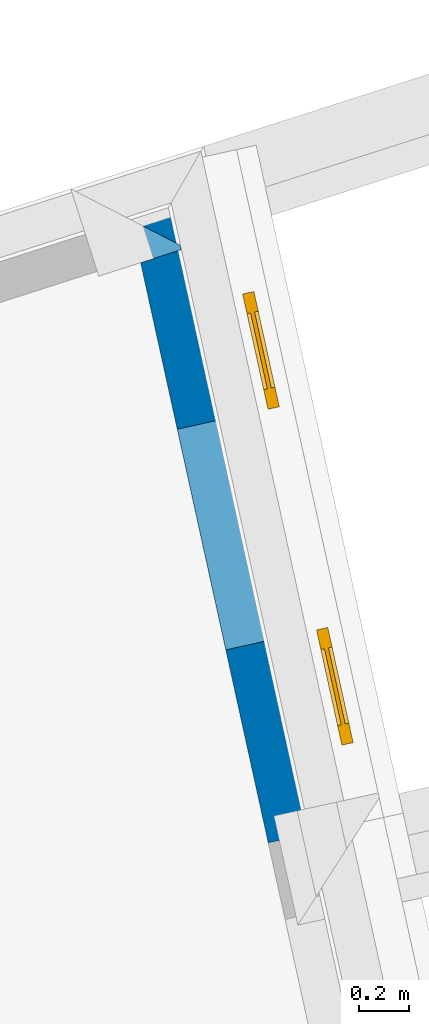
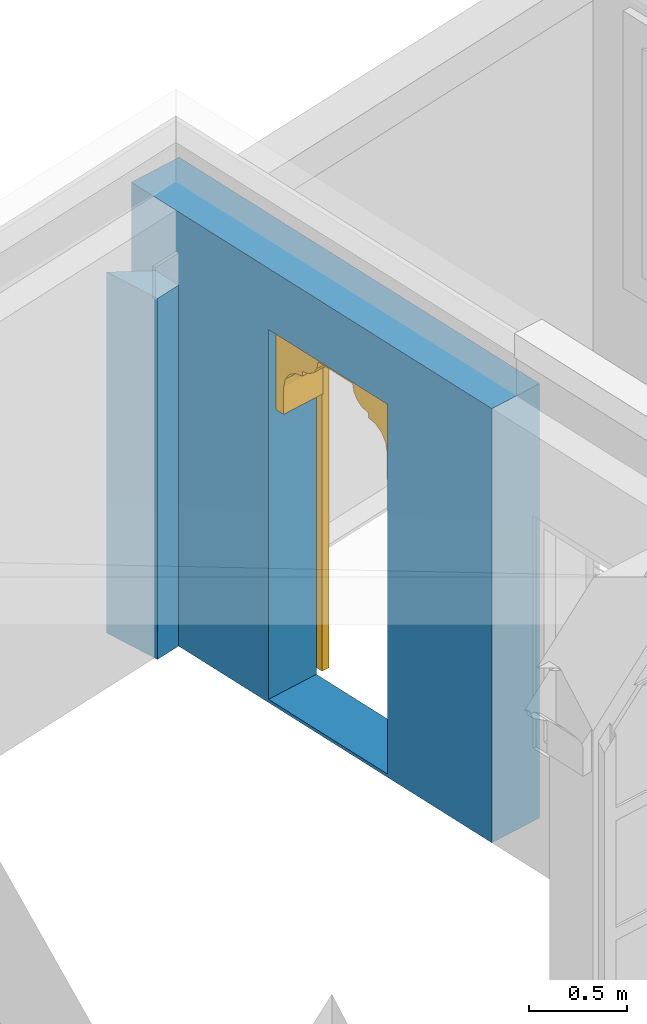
# One storey, part 12 of 17: 2 walls, 1 door, 1 opening.
"""IFC4 building model written with IfcOpenShell, lengths in metres."""

from ifc_helpers import new_model, si_unit, frame, origin, origin_with_axes, place, context, subcontext, project, spatial, polyline, outline, extrude, clip, halfspace, faceted_brep, source, transform, mapped, material, layer, layer_set, layer_usage, material_profile, profile_set, profile_usage, type_object, type_shapes, element, fill, save


model = new_model("IFC4")

# Units and contexts
model_context = context("Model", 3, world=origin_with_axes())
body_context = subcontext(model_context, "Body", "Model", "MODEL_VIEW")
ifc_project = project(units=[si_unit("PLANEANGLEUNIT", "RADIAN"), si_unit("MASSUNIT", "GRAM", prefix="KILO"), si_unit("FORCEUNIT", "NEWTON", prefix="KILO"), si_unit("LENGTHUNIT", "METRE"), si_unit("AREAUNIT", "SQUARE_METRE"), si_unit("VOLUMEUNIT", "CUBIC_METRE")], contexts=[model_context, model_context])

# Site, building, storey
site_placement = place(None, origin_with_axes())
site = spatial("IfcSite", under=ifc_project, at=site_placement, Name="Site plot-2", CompositionType="ELEMENT")
building_placement = place(None, origin_with_axes())
building = spatial("IfcBuilding", under=site, at=building_placement, Name="Building plot-2", CompositionType="ELEMENT")
storey_placement = place(None, frame((0.0, 0.0, 2.85), z_axis=(0.0, 0.0, 1.0), x_axis=(1.0, 0.0, 0.0)))
storey = spatial("IfcBuildingStorey", under=building, at=storey_placement, Name="plot-2 1", CompositionType="ELEMENT", Elevation=2.85)

# Wall, opening, door
ifc_material = material(Name="Masonry")
ifc_layer = layer(ifc_material, 0.33, ventilated=False)
ifc_layer_set = layer_set([ifc_layer], Name="exterior_0.08_0.25")
ifc_layer_usage = layer_usage(ifc_layer_set, "AXIS2", "POSITIVE", -0.25)
wall_type_1 = type_object("IfcWallType", Name="exterior_0.08_0.25", PredefinedType="SOLIDWALL", material=ifc_layer_set)
wall_1_placement = place(storey_placement, frame((12.116330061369, 12.5787445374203, 0.0), z_axis=(0.0, 0.0, 1.0), x_axis=(-0.214808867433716, 0.976656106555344, 0.0)))
wall_1 = element("IfcWall", 1, at=wall_1_placement, inside=storey, type_object=wall_type_1, material=ifc_layer_usage, Name="exterior", context=body_context, shape_type="SweptSolid", body=[
    extrude(outline(polyline([(-4.38270280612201e-15, 0.0799999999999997), (1.13395829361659e-14, -0.249999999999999), (2.72432531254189, -0.25), (2.72432531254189, 0.0800000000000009), (-4.38270280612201e-15, 0.0799999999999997)])), origin_with_axes(), (0.0, 0.0, 1.0), 2.7),
])
opening_placement = place(wall_1_placement, frame((0.787162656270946, 0.0, 0.02)))
opening = element("IfcOpeningElement", 2, at=opening_placement, cuts=wall_1, Name="My Opening", ObjectType="Opening", context=body_context, shape_type="SweptSolid", body=[
    extrude(outline(polyline([(0.0, -0.269999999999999), (0.9, -0.270000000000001), (0.899999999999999, 1.1), (-6.66133814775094e-16, 1.1), (0.0, -0.269999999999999)])), origin_with_axes(), (0.0, 0.0, 1.0), 2.3),
])
door_type = type_object("IfcDoorType", Name="arch-900x2300", OperationType="SINGLE_SWING_LEFT", PredefinedType="NOTDEFINED")
shared_shape = source(origin(), body_context, "Body", "Brep", [
    faceted_brep([(-0.08, -0.02, 0.08), (-0.08, -0.02, 0.0), (-0.39, -0.02, 0.0), (-0.39, -0.02, 0.08), (-0.47, -0.02, 0.0), (-0.47, -0.02, 0.08), (-0.39, -0.035, 0.08), (-0.08, -0.035, 0.08), (0.0, -0.02, 0.08), (0.0, -0.02, 0.0), (-0.08, -0.066, 0.0), (-0.39, -0.066, 0.0), (-0.47, -0.066, 0.0), (-0.47, -0.066, 0.08), (-0.39, -0.02, 0.743333), (-0.47, -0.02, 0.743333), (-0.39, -0.035, 0.743333), (-0.08, -0.035, 0.743333), (-0.08, -0.02, 0.743333), (0.0, -0.02, 0.743333), (0.0, -0.066, 0.08), (0.0, -0.066, 0.0), (-0.39, -0.066, 0.08), (-0.08, -0.066, 0.08), (-0.47, -0.066, 0.743333), (-0.39, -0.02, 0.823333), (-0.47, -0.02, 0.823333), (0.0, -0.066, 0.743333), (0.0, -0.02, 0.823333), (-0.08, -0.02, 0.823333), (-0.08, -0.051, 0.08), (-0.39, -0.051, 0.08), (-0.39, -0.066, 0.743333), (-0.47, -0.066, 0.823333), (-0.39, -0.02, 1.486667), (-0.47, -0.02, 1.486667), (0.0, -0.066, 0.823333), (-0.08, -0.066, 0.743333), (0.0, -0.02, 1.486667), (-0.08, -0.02, 1.486667), (-0.08, -0.051, 0.743333), (-0.39, -0.051, 0.743333), (-0.39, -0.066, 0.823333), (-0.47, -0.066, 1.486667), (-0.39, -0.035, 0.823333), (-0.08, -0.035, 0.823333), (-0.39, -0.035, 1.486667), (-0.39, -0.02, 1.566667), (-0.47, -0.02, 1.566667), (0.0, -0.066, 1.486667), (-0.08, -0.066, 0.823333), (-0.08, -0.035, 1.486667), (0.0, -0.02, 1.566667), (-0.08, -0.02, 1.566667), (-0.39, -0.066, 1.486667), (-0.47, -0.066, 1.566667), (-0.39, -0.02, 2.23), (-0.47, -0.02, 2.23), (0.0, -0.066, 1.566667), (-0.08, -0.066, 1.486667), (0.0, -0.02, 2.23), (-0.08, -0.02, 2.23), (-0.08, -0.051, 0.823333), (-0.39, -0.051, 0.823333), (-0.39, -0.051, 1.486667), (-0.39, -0.066, 1.566667), (-0.47, -0.066, 2.23), (-0.39, -0.035, 1.566667), (-0.08, -0.035, 1.566667), (-0.39, -0.035, 2.23), (-0.39, -0.02, 2.31), (-0.47, -0.02, 2.31), (0.0, -0.066, 2.23), (-0.08, -0.066, 1.566667), (-0.08, -0.051, 1.486667), (-0.08, -0.035, 2.23), (0.0, -0.02, 2.31), (-0.08, -0.02, 2.31), (-0.39, -0.066, 2.23), (-0.47, -0.066, 2.31), (-0.39, -0.066, 2.31), (0.0, -0.066, 2.31), (-0.08, -0.066, 2.23), (-0.08, -0.066, 2.31), (-0.08, -0.051, 1.566667), (-0.39, -0.051, 1.566667), (-0.39, -0.051, 2.23), (-0.08, -0.051, 2.23), (1.29, -0.02, 0.08), (1.29, -0.02, 0.0), (0.98, -0.02, 0.0), (0.98, -0.02, 0.08), (1.37, -0.02, 0.08), (1.37, -0.02, 0.0), (0.98, -0.035, 0.08), (1.29, -0.035, 0.08), (0.9, -0.02, 0.0), (0.9, -0.02, 0.08), (1.29, -0.066, 0.0), (0.98, -0.066, 0.0), (1.37, -0.066, 0.08), (1.37, -0.066, 0.0), (1.37, -0.02, 0.743333), (1.29, -0.02, 0.743333), (1.29, -0.035, 0.743333), (0.98, -0.035, 0.743333), (0.98, -0.02, 0.743333), (0.9, -0.02, 0.743333), (0.9, -0.066, 0.0), (0.9, -0.066, 0.08), (0.98, -0.066, 0.08), (1.29, -0.066, 0.08), (1.37, -0.066, 0.743333), (1.37, -0.02, 0.823333), (1.29, -0.02, 0.823333), (0.9, -0.066, 0.743333), (0.98, -0.02, 0.823333), (0.9, -0.02, 0.823333), (1.29, -0.051, 0.08), (0.98, -0.051, 0.08), (1.29, -0.066, 0.743333), (1.37, -0.066, 0.823333), (1.37, -0.02, 1.486667), (1.29, -0.02, 1.486667), (0.9, -0.066, 0.823333), (0.98, -0.066, 0.743333), (0.98, -0.02, 1.486667), (0.9, -0.02, 1.486667), (0.98, -0.051, 0.743333), (1.29, -0.051, 0.743333), (1.29, -0.066, 0.823333), (1.37, -0.066, 1.486667), (0.98, -0.035, 0.823333), (1.29, -0.035, 0.823333), (1.29, -0.035, 1.486667), (1.37, -0.02, 1.566667), (1.29, -0.02, 1.566667), (0.9, -0.066, 1.486667), (0.98, -0.066, 0.823333), (0.98, -0.035, 1.486667), (0.98, -0.02, 1.566667), (0.9, -0.02, 1.566667), (1.29, -0.066, 1.486667), (1.37, -0.066, 1.566667), (1.37, -0.02, 2.23), (1.29, -0.02, 2.23), (0.9, -0.066, 1.566667), (0.98, -0.066, 1.486667), (0.98, -0.02, 2.23), (0.9, -0.02, 2.23), (1.29, -0.051, 0.823333), (0.98, -0.051, 0.823333), (1.29, -0.051, 1.486667), (1.29, -0.066, 1.566667), (1.37, -0.066, 2.23), (0.98, -0.035, 1.566667), (1.29, -0.035, 1.566667), (1.29, -0.035, 2.23), (1.37, -0.02, 2.31), (1.29, -0.02, 2.31), (0.9, -0.066, 2.23), (0.98, -0.066, 1.566667), (0.98, -0.051, 1.486667), (0.98, -0.035, 2.23), (0.98, -0.02, 2.31), (0.9, -0.02, 2.31), (1.29, -0.066, 2.23), (1.37, -0.066, 2.31), (1.29, -0.066, 2.31), (0.9, -0.066, 2.31), (0.98, -0.066, 2.23), (0.98, -0.066, 2.31), (1.29, -0.051, 1.566667), (0.98, -0.051, 1.566667), (1.29, -0.051, 2.23), (0.98, -0.051, 2.23), (0.9, 0.03, 1.78), (0.9, 0.03, 1.95), (0.84, 0.03, 1.95), (0.84, 0.03, 1.78), (0.84, 0.3, 1.95), (0.84, 0.3, 1.78), (0.9, 0.03, 2.12), (0.829, 0.03, 2.004), (0.9, 0.3, 1.78), (0.9, 0.3, 1.95), (0.829, 0.3, 2.004), (0.799, 0.03, 2.049), (0.9, 0.3, 2.12), (0.799, 0.3, 2.049), (0.754, 0.03, 2.079), (0.9, 0.3, 2.29), (0.9, 0.03, 2.29), (0.754, 0.3, 2.079), (0.7, 0.03, 2.09), (0.7, 0.03, 2.12), (0.654, 0.03, 2.129), (0.58, 0.3, 2.29), (0.58, 0.03, 2.29), (0.7, 0.3, 2.12), (0.654, 0.3, 2.129), (0.7, 0.3, 2.09), (0.615, 0.03, 2.155), (0.589, 0.3, 2.194), (0.58, 0.3, 2.24), (0.58, 0.03, 2.24), (0.589, 0.03, 2.194), (0.615, 0.3, 2.155), (0.06, 0.03, 1.78), (0.06, 0.03, 1.95), (0.0, 0.03, 1.95), (0.0, 0.03, 1.78), (0.06, 0.3, 1.78), (0.06, 0.3, 1.95), (0.071, 0.03, 2.004), (0.0, 0.03, 2.12), (0.0, 0.3, 1.95), (0.0, 0.3, 1.78), (0.071, 0.3, 2.004), (0.101, 0.03, 2.049), (0.0, 0.3, 2.12), (0.101, 0.3, 2.049), (0.146, 0.03, 2.079), (0.0, 0.03, 2.29), (0.0, 0.3, 2.29), (0.146, 0.3, 2.079), (0.2, 0.03, 2.12), (0.2, 0.03, 2.09), (0.246, 0.03, 2.129), (0.32, 0.03, 2.29), (0.32, 0.3, 2.29), (0.246, 0.3, 2.129), (0.2, 0.3, 2.12), (0.2, 0.3, 2.09), (0.285, 0.03, 2.155), (0.32, 0.3, 2.24), (0.311, 0.3, 2.194), (0.311, 0.03, 2.194), (0.32, 0.03, 2.24), (0.285, 0.3, 2.155)], [[[0, 1, 2, 3]], [[4, 5, 3, 2]], [[0, 3, 6, 7]], [[1, 0, 8, 9]], [[2, 1, 10, 11]], [[5, 4, 12, 13]], [[14, 3, 5, 15]], [[4, 2, 11, 12]], [[3, 14, 16, 6]], [[6, 16, 17, 7]], [[18, 0, 7, 17]], [[0, 18, 19, 8]], [[9, 8, 20, 21]], [[1, 9, 21, 10]], [[22, 11, 10, 23]], [[13, 12, 11, 22]], [[15, 5, 13, 24]], [[25, 14, 15, 26]], [[14, 18, 17, 16]], [[8, 19, 27, 20]], [[28, 19, 18, 29]], [[23, 10, 21, 20]], [[22, 23, 30, 31]], [[22, 32, 24, 13]], [[26, 15, 24, 33]], [[29, 18, 14, 25]], [[34, 25, 26, 35]], [[19, 28, 36, 27]], [[20, 27, 37, 23]], [[38, 28, 29, 39]], [[23, 37, 40, 30]], [[41, 31, 30, 40]], [[32, 22, 31, 41]], [[32, 42, 33, 24]], [[35, 26, 33, 43]], [[29, 25, 44, 45]], [[25, 34, 46, 44]], [[47, 34, 35, 48]], [[28, 38, 49, 36]], [[27, 36, 50, 37]], [[39, 29, 45, 51]], [[52, 38, 39, 53]], [[37, 32, 41, 40]], [[37, 50, 42, 32]], [[42, 54, 43, 33]], [[48, 35, 43, 55]], [[44, 46, 51, 45]], [[34, 39, 51, 46]], [[34, 47, 53, 39]], [[56, 47, 48, 57]], [[38, 52, 58, 49]], [[36, 49, 59, 50]], [[60, 52, 53, 61]], [[42, 50, 62, 63]], [[54, 42, 63, 64]], [[54, 65, 55, 43]], [[57, 48, 55, 66]], [[53, 47, 67, 68]], [[47, 56, 69, 67]], [[70, 56, 57, 71]], [[52, 60, 72, 58]], [[49, 58, 73, 59]], [[50, 59, 74, 62]], [[61, 53, 68, 75]], [[76, 60, 61, 77]], [[64, 63, 62, 74]], [[59, 54, 64, 74]], [[65, 54, 59, 73]], [[65, 78, 66, 55]], [[71, 57, 66, 79]], [[67, 69, 75, 68]], [[56, 61, 75, 69]], [[77, 61, 56, 70]], [[70, 71, 79, 80]], [[60, 76, 81, 72]], [[58, 72, 82, 73]], [[76, 77, 83, 81]], [[65, 73, 84, 85]], [[78, 65, 85, 86]], [[78, 80, 79, 66]], [[77, 70, 80, 83]], [[72, 81, 83, 82]], [[73, 82, 87, 84]], [[86, 85, 84, 87]], [[82, 78, 86, 87]], [[82, 83, 80, 78]], [[88, 89, 90, 91]], [[89, 88, 92, 93]], [[94, 95, 88, 91]], [[96, 97, 91, 90]], [[98, 99, 90, 89]], [[100, 101, 93, 92]], [[102, 92, 88, 103]], [[101, 98, 89, 93]], [[95, 104, 103, 88]], [[94, 105, 104, 95]], [[105, 94, 91, 106]], [[97, 107, 106, 91]], [[108, 109, 97, 96]], [[99, 108, 96, 90]], [[110, 99, 98, 111]], [[111, 98, 101, 100]], [[112, 100, 92, 102]], [[113, 102, 103, 114]], [[104, 105, 106, 103]], [[109, 115, 107, 97]], [[116, 106, 107, 117]], [[109, 108, 99, 110]], [[118, 119, 110, 111]], [[100, 112, 120, 111]], [[121, 112, 102, 113]], [[114, 103, 106, 116]], [[122, 113, 114, 123]], [[115, 124, 117, 107]], [[110, 125, 115, 109]], [[126, 116, 117, 127]], [[119, 128, 125, 110]], [[128, 119, 118, 129]], [[129, 118, 111, 120]], [[112, 121, 130, 120]], [[131, 121, 113, 122]], [[132, 133, 114, 116]], [[133, 134, 123, 114]], [[135, 122, 123, 136]], [[124, 137, 127, 117]], [[125, 138, 124, 115]], [[139, 132, 116, 126]], [[140, 126, 127, 141]], [[128, 129, 120, 125]], [[120, 130, 138, 125]], [[121, 131, 142, 130]], [[143, 131, 122, 135]], [[132, 139, 134, 133]], [[134, 139, 126, 123]], [[126, 140, 136, 123]], [[144, 135, 136, 145]], [[137, 146, 141, 127]], [[138, 147, 137, 124]], [[148, 140, 141, 149]], [[150, 151, 138, 130]], [[152, 150, 130, 142]], [[131, 143, 153, 142]], [[154, 143, 135, 144]], [[155, 156, 136, 140]], [[156, 157, 145, 136]], [[158, 144, 145, 159]], [[146, 160, 149, 141]], [[147, 161, 146, 137]], [[151, 162, 147, 138]], [[163, 155, 140, 148]], [[164, 148, 149, 165]], [[162, 151, 150, 152]], [[162, 152, 142, 147]], [[161, 147, 142, 153]], [[143, 154, 166, 153]], [[167, 154, 144, 158]], [[155, 163, 157, 156]], [[157, 163, 148, 145]], [[159, 145, 148, 164]], [[168, 167, 158, 159]], [[160, 169, 165, 149]], [[161, 170, 160, 146]], [[169, 171, 164, 165]], [[172, 173, 161, 153]], [[174, 172, 153, 166]], [[154, 167, 168, 166]], [[171, 168, 159, 164]], [[170, 171, 169, 160]], [[173, 175, 170, 161]], [[175, 173, 172, 174]], [[175, 174, 166, 170]], [[166, 168, 171, 170]], [[176, 177, 178, 179]], [[180, 181, 179, 178]], [[177, 182, 183, 178]], [[177, 176, 184, 185]], [[181, 184, 176, 179]], [[181, 180, 185, 184]], [[186, 180, 178, 183]], [[182, 187, 183]], [[182, 177, 185, 188]], [[180, 186, 188, 185]], [[189, 186, 183, 187]], [[182, 190, 187]], [[188, 191, 192, 182]], [[188, 186, 189]], [[193, 189, 187, 190]], [[194, 190, 182, 195]], [[182, 192, 196, 195]], [[192, 191, 197, 198]], [[199, 200, 191, 188]], [[188, 189, 193]], [[201, 193, 190, 194]], [[199, 201, 194, 195]], [[200, 199, 195, 196]], [[192, 202, 196]], [[191, 203, 204, 197]], [[192, 198, 205, 206]], [[207, 191, 200]], [[199, 188, 193, 201]], [[207, 200, 196, 202]], [[192, 206, 202]], [[204, 203, 206, 205]], [[203, 191, 207]], [[203, 207, 202, 206]], [[208, 209, 210, 211]], [[209, 208, 212, 213]], [[209, 214, 215, 210]], [[211, 210, 216, 217]], [[208, 211, 217, 212]], [[217, 216, 213, 212]], [[214, 209, 213, 218]], [[214, 219, 215]], [[220, 216, 210, 215]], [[216, 220, 218, 213]], [[219, 214, 218, 221]], [[219, 222, 215]], [[215, 223, 224, 220]], [[221, 218, 220]], [[222, 219, 221, 225]], [[226, 215, 222, 227]], [[226, 228, 223, 215]], [[229, 230, 224, 223]], [[220, 224, 231, 232]], [[225, 221, 220]], [[227, 222, 225, 233]], [[226, 227, 233, 232]], [[228, 226, 232, 231]], [[228, 234, 223]], [[230, 235, 236, 224]], [[237, 238, 229, 223]], [[231, 224, 239]], [[233, 225, 220, 232]], [[234, 228, 231, 239]], [[234, 237, 223]], [[238, 237, 236, 235]], [[239, 224, 236]], [[237, 234, 239, 236]], [[238, 235, 204, 205]], [[235, 230, 197, 204]], [[229, 238, 205, 198]], [[230, 229, 198, 197]]]),
])
type_shapes(door_type, [shared_shape])
door_placement = place(storey_placement, frame((12.2109376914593, 13.4055301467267, 0.02), z_axis=(0.0, 0.0, 1.0), x_axis=(-0.193327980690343, 0.87899049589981, 0.0)))
door = element("IfcDoor", 3, at=door_placement, inside=storey, type_object=door_type, Name="circulation sahn door", OverallHeight=2.3, OverallWidth=0.9, context=body_context, shape_type="MappedRepresentation", body=[
    mapped(shared_shape, transform((0.0, 0.0, 0.0), scale=1.0)),
])
fill(opening, door)

# Wall
ifc_material_profile = material_profile(None, outline(polyline([(0.25, 0.0), (0.25, 2.245), (0.05, 2.245), (0.05, 0.02), (-0.08, 0.02), (-0.08, 0.0), (0.25, 0.0)])))
ifc_profile_set = profile_set([ifc_material_profile])
ifc_profile_usage = profile_usage(ifc_profile_set)
wall_type_2 = type_object("IfcWallType", Name="parapet party_0", PredefinedType="PARAPET", material=ifc_profile_set)
wall_2_placement = place(storey_placement, frame((11.9207556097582, 13.947860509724, 0.0), z_axis=(-0.305393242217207, 0.952226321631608, 0.0), x_axis=(-0.952226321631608, -0.305393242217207, 0.0)))
element("IfcWall", 4, at=wall_2_placement, inside=storey, type_object=wall_type_2, material=ifc_profile_usage, Name="parapet party_0", context=body_context, shape_type="Clipping", body=[
    clip(clip(extrude(outline(polyline([(0.25, 0.0), (0.25, 2.245), (0.05, 2.245), (0.05, 0.02), (-0.08, 0.02), (-0.08, 0.0), (0.25, 0.0)])), origin_with_axes(), (0.0, 0.0, 1.0), 2.1), halfspace(frame((0.0, 0.0, 1.1), z_axis=(0.70710678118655, 0.0, -0.707106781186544), x_axis=(0.0, 1.0, 0.0)), True)), halfspace(frame((0.0, 0.0, 1.0), z_axis=(6.04901474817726e-16, 0.0, -1.0), x_axis=(0.0, 1.0, 0.0)), False)),
])

save(model, "model.ifc")
